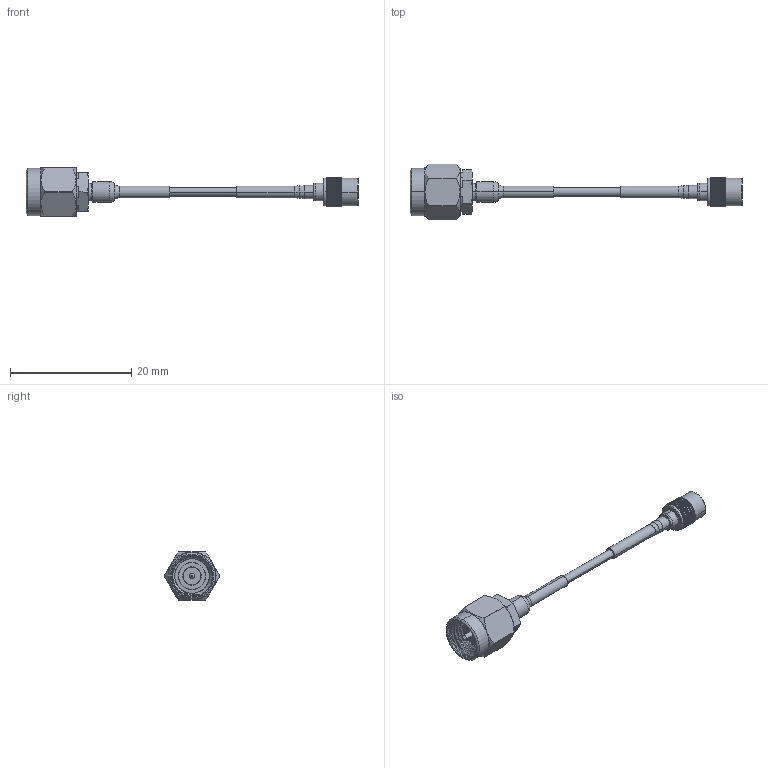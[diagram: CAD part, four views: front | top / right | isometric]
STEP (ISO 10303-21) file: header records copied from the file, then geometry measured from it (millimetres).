
FILE_DESCRIPTION (( 'STEP AP203' ), '1' );
FILE_NAME ('136S10474200.STEP', '2016-08-25T14:24:17', ( '' ), ( '' ), 'SwSTEP 2.0', 'SolidWorks 2014', '' );
FILE_SCHEMA (( 'CONFIG_CONTROL_DESIGN' ));
Length unit declared in the file: inch
Products named in the file (21): C6294-2; 1007; 7211916111; C6395-2; 1604-6; 136S10474200; 2115-14; C6398-2_AS MACHINED; 2200-14; C6461-1; 1165-138; C6462-4; 5755-11CCSF; C6023-4; C6489-4; TLL26-5047_Temp-flex 29 AWG COAX #047SC-29 01; 1183-10; P176TL-1CC_CORE GD CABLE END; 2200-18; 1008-4B; 7211916111_-2
Assembly tree (20 placements, depth 3):
  136S10474200
    5755-11CCSF
      C6023-4
      1183-10
      1008-4B
      1007
      1604-6
      2115-14
      2200-14
      1165-138
    TLL26-5047_Temp-flex 29 AWG COAX #047SC-29 01
    P176TL-1CC_CORE GD CABLE END
      2200-18
      C6294-2
      C6395-2
      C6398-2_AS MACHINED
      C6461-1
      C6462-4
      C6489-4
    7211916111_-2
    7211916111
Bounding box: 54.66 x 9.14 x 7.92 mm (x, y, z)
Volume: 557.2 mm3; surface area: 2203.9 mm2
Topology: 19 solids, 19 shells, 719 faces, 1861 edges, 1200 vertices
Faces by surface type: plane 310, cylinder 263, cone 100, torus 40, bspline 6
Entity records: 26495 total; most frequent: CARTESIAN_POINT 6434, DIRECTION 3789, ORIENTED_EDGE 3706, EDGE_CURVE 1853, AXIS2_PLACEMENT_3D 1386, VERTEX_POINT 1200, LINE 1017, VECTOR 1017
